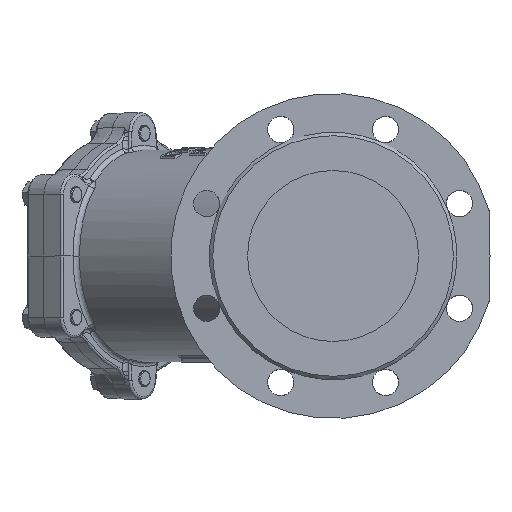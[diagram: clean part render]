
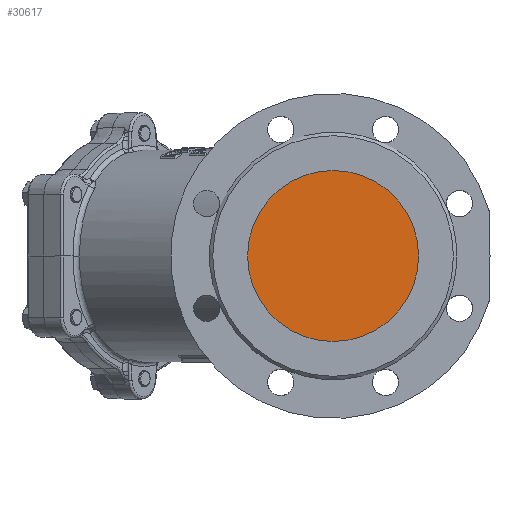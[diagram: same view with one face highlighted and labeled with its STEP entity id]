
A CAD part, left-side view. The second image highlights one B-rep face of the part: STEP entity #30617.
In plain terms, the highlighted planar face has unit normal (-1, 0, 0).
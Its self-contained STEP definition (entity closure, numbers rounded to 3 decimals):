
#6220 = VERTEX_POINT ( 'NONE', #41323 ) ;
#6675 = DIRECTION ( 'NONE',  ( 0., 0., 1. ) ) ;
#8054 = AXIS2_PLACEMENT_3D ( 'NONE', #41008, #41636, #37319 ) ;
#11405 = EDGE_CURVE ( 'NONE', #6220, #6220, #32344, .T. ) ;
#27503 = DIRECTION ( 'NONE',  ( -1., 0., 0. ) ) ;
#28655 = FACE_OUTER_BOUND ( 'NONE', #63456, .T. ) ;
#30617 = ADVANCED_FACE ( 'NONE', ( #28655 ), #52651, .T. ) ;
#32344 = CIRCLE ( 'NONE', #8054, 75. ) ;
#37319 = DIRECTION ( 'NONE',  ( 0., 0., 1. ) ) ;
#41008 = CARTESIAN_POINT ( 'NONE',  ( -196.966, 0., 0. ) ) ;
#41323 = CARTESIAN_POINT ( 'NONE',  ( -196.966, 0., 75. ) ) ;
#41636 = DIRECTION ( 'NONE',  ( -1., 0., 0. ) ) ;
#50091 = ORIENTED_EDGE ( 'NONE', *, *, #11405, .T. ) ;
#52651 = PLANE ( 'NONE',  #57370 ) ;
#57370 = AXIS2_PLACEMENT_3D ( 'NONE', #60673, #27503, #6675 ) ;
#60673 = CARTESIAN_POINT ( 'NONE',  ( -196.966, 0., 0. ) ) ;
#63456 = EDGE_LOOP ( 'NONE', ( #50091 ) ) ;
